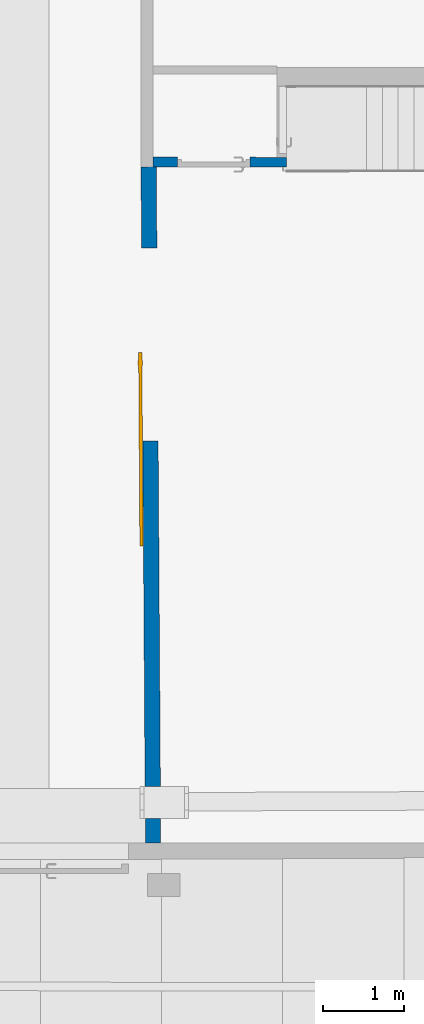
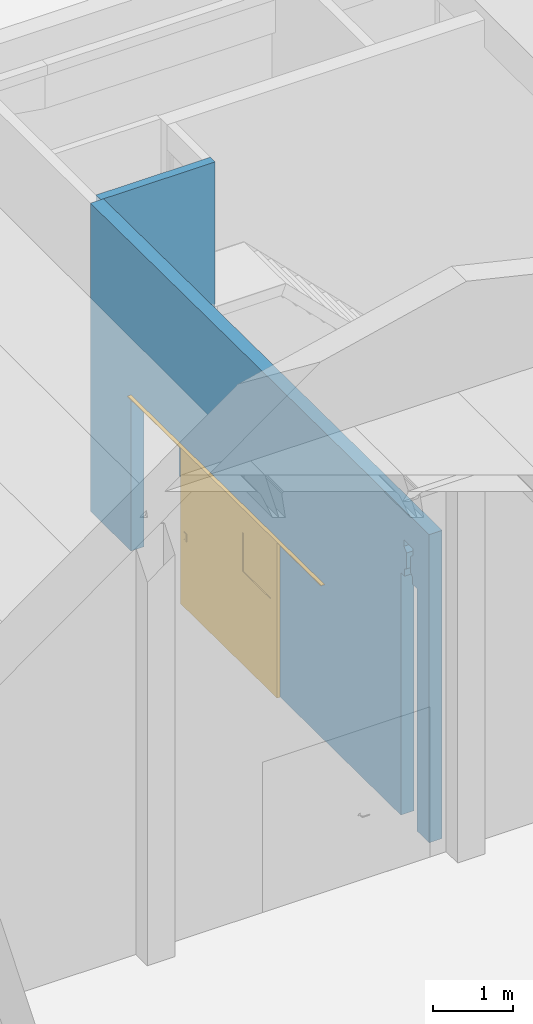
# One storey, part 142 of 301: 2 walls, 1 door, 2 openings.
"""IFC2X3 building model written with IfcOpenShell, lengths in millimetres."""

from ifc_helpers import new_model, entity, si_unit, converted_unit, derived_unit, money_unit, direction, frame, origin_with_axes, place, context, subcontext, project, spatial, open_shell, faceted_brep, surface_model, material, type_object, element, fill, save


model = new_model("IFC2X3")

# Units and contexts
model_context = context("Model", 3, precision=0.01, world=origin_with_axes(), true_north=direction((0.0, 1.0)))
body_context = subcontext(model_context, "Body", "Model", "MODEL_VIEW")
ifc_project = project(units=[si_unit("LENGTHUNIT", "METRE", prefix="MILLI"), si_unit("AREAUNIT", "SQUARE_METRE"), si_unit("VOLUMEUNIT", "CUBIC_METRE"), converted_unit("PLANEANGLEUNIT", "DEGREE", entity("IfcPlaneAngleMeasure", 0.0174532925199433), si_unit("PLANEANGLEUNIT", "RADIAN"), dimensions=[0, 0, 0, 0, 0, 0, 0]), money_unit("EUR"), converted_unit("TIMEUNIT", "Year", entity("IfcTimeMeasure", 31557600.0), si_unit("TIMEUNIT", "SECOND"), dimensions=[0, 0, 1, 0, 0, 0, 0]), si_unit("MASSUNIT", "GRAM", prefix="KILO"), si_unit("THERMODYNAMICTEMPERATUREUNIT", "DEGREE_CELSIUS"), si_unit("LUMINOUSINTENSITYUNIT", "LUMEN"), si_unit("ENERGYUNIT", "JOULE", prefix="MEGA"), derived_unit("THERMALCONDUCTANCEUNIT", [(si_unit("POWERUNIT", "WATT"), 1), (si_unit("LENGTHUNIT", "METRE"), -1), (si_unit("THERMODYNAMICTEMPERATUREUNIT", "KELVIN"), -1)]), derived_unit("SPECIFICHEATCAPACITYUNIT", [(si_unit("ENERGYUNIT", "JOULE"), 1), (si_unit("MASSUNIT", "GRAM", prefix="KILO"), -1), (si_unit("THERMODYNAMICTEMPERATUREUNIT", "KELVIN"), -1)]), derived_unit("MASSDENSITYUNIT", [(si_unit("MASSUNIT", "GRAM", prefix="KILO"), 1), (si_unit("VOLUMEUNIT", "CUBIC_METRE"), -1)])], contexts=[model_context])

# Site, building, storey
site_placement = place(None, frame((0.0, 0.0, 8650.0), z_axis=(0.0, 0.0, 1.0), x_axis=(1.0, 0.0, 0.0)))
site = spatial("IfcSite", under=ifc_project, at=site_placement, Name="43301:001:0844", CompositionType="ELEMENT")
building_placement = place(site_placement, origin_with_axes())
building = spatial("IfcBuilding", under=site, at=building_placement, Name="Kuressaare Ametikooli tuulikute mehaanikute õppekorpus", CompositionType="ELEMENT")
storey_placement = place(building_placement, origin_with_axes())
storey = spatial("IfcBuildingStorey", under=building, at=storey_placement, Name="1.korrus", CompositionType="ELEMENT", Elevation=0.0)

# Wall, opening, door
ifc_material = material(Name="GENEERILINE - KONSTRUKTRIOON")
wall_type_1 = type_object("IfcWallType", Name="GENEERILINE - KONSTRUKTRIOON 190", PredefinedType="NOTDEFINED")
wall_1_placement = place(storey_placement, frame((95526.50333681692, 62318.31223651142, 44.99999999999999), z_axis=(0.0, 0.0, 1.0), x_axis=(-0.006518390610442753, 0.9999787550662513, 0.0)))
wall_1 = element("IfcWall", 1, at=wall_1_placement, inside=storey, type_object=wall_type_1, material=ifc_material, Name="SS-XX", context=body_context, shape_type="Brep", body=[
    faceted_brep([(7387.926210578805, -190.0000000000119, 2390.0), (7387.926210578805, -189.9999999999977, 0.0), (8394.490610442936, -189.9999999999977, 0.0), (8394.490610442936, -189.9999999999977, 4715.0), (-1.237774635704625, -190.0000000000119, 4715.0), (-1.237774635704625, -190.0000000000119, 0.0), (299.7543023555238, -190.0000000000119, 0.0), (299.7543023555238, -190.0000000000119, 3710.018521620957), (408.0465716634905, -190.0000000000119, 3710.018521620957), (408.0465716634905, -190.0000000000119, 3819.998829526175), (463.0468280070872, -189.9999999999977, 3856.665496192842), (463.0468280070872, -189.9999999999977, 4099.999999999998), (393.0465017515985, -189.9999999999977, 4160.0), (393.0465017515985, -189.9999999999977, 4260.0), (623.0475737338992, -189.9999999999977, 4260.0), (623.0475737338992, -189.9999999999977, 4160.0), (553.0472474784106, -190.0000000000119, 4099.999999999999), (553.0472474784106, -190.0000000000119, 3856.665496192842), (608.0475038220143, -190.0000000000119, 3819.998829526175), (608.0475038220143, -190.0000000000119, 3710.018521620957), (699.7628005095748, -190.0000000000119, 3710.018521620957), (699.7628005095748, -190.0000000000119, 0.0), (4987.926210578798, -190.0000000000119, 0.0), (4987.926210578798, -190.0000000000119, 2390.0), (7387.926210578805, 0.0, 2390.0), (7387.926210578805, 0.0, 0.0), (8394.490610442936, 0.0, 0.0), (8394.490610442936, 0.0, 4715.0), (0.0, 0.0, 4715.0), (0.0, 0.0, 0.0), (300.9928228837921, 0.0, 0.0), (300.9928228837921, 0.0, 3710.018521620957), (408.6266664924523, 0.0, 3710.018521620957), (408.6266664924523, 0.0, 3819.998829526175), (463.6269228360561, 0.0, 3856.665496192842), (463.6269228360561, 0.0, 4099.999999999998), (393.6265965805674, 0.0, 4160.0), (393.6265965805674, 0.0, 4260.0), (623.6276685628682, 0.0, 4260.0), (623.6276685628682, 0.0, 4160.0), (553.6273423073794, 0.0, 4099.999999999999), (553.6273423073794, 0.0, 3856.665496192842), (608.6275986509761, 0.0, 3819.998829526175), (608.6275986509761, 0.0, 3710.018521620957), (701.0013210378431, 0.0, 3710.018521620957), (701.0013210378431, 0.0, 0.0), (4987.926210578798, 0.0, 0.0), (4987.926210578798, 0.0, 2390.0)], [[[0, 1, 2, 3, 4, 5, 6, 7, 8, 9, 10, 11, 12, 13, 14, 15, 16, 17, 18, 19, 20, 21, 22, 23]], [[1, 0, 24, 25]], [[1, 25, 26, 2]], [[26, 27, 3, 2]], [[28, 4, 3, 27]], [[29, 5, 4, 28]], [[30, 6, 5, 29]], [[7, 6, 30, 31]], [[8, 7, 31, 32]], [[8, 32, 33, 9]], [[34, 10, 9, 33]], [[35, 11, 10, 34]], [[36, 12, 11, 35]], [[37, 13, 12, 36]], [[38, 14, 13, 37]], [[39, 15, 14, 38]], [[40, 16, 15, 39]], [[41, 17, 16, 40]], [[42, 18, 17, 41]], [[43, 19, 18, 42]], [[20, 19, 43, 44]], [[44, 45, 21, 20]], [[46, 22, 21, 45]], [[23, 22, 46, 47]], [[0, 23, 47, 24]], [[47, 46, 45, 44, 43, 42, 41, 40, 39, 38, 37, 36, 35, 34, 33, 32, 31, 30, 29, 28, 27, 26, 25, 24]]]),
])
opening_1_placement = place(wall_1_placement, frame((6187.926210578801, 0.0, 0.0), z_axis=(0.0, 0.0, 1.0), x_axis=(1.0, 0.0, 0.0)))
opening_1 = element("IfcOpeningElement", 2, at=opening_1_placement, cuts=wall_1, Name="SU-XX", context=body_context, shape_type="Brep", body=[
    faceted_brep([(-1199.999999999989, -245.7174062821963, 2390.0), (-1199.999999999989, -245.7174062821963, 0.0), (1200.000000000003, -245.7174062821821, 0.0), (1200.000000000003, -245.7174062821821, 2390.0), (-1200.000000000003, 55.71740628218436, 2390.0), (-1200.000000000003, 55.71740628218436, 0.0), (1199.999999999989, 55.71740628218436, 0.0), (1199.999999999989, 55.71740628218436, 2390.0)], [[[0, 1, 2, 3]], [[4, 5, 1, 0]], [[5, 6, 2, 1]], [[6, 7, 3, 2]], [[7, 4, 0, 3]], [[6, 5, 4, 7]]]),
])
door_style = type_object("IfcDoorStyle", Name="Exterior Sliding Door 27", ConstructionType="NOTDEFINED", OperationType="SLIDING_TO_LEFT", ParameterTakesPrecedence=False, Sizeable=False)
door_placement = place(opening_1_placement, frame((-1200.000000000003, 0.0, 0.0), z_axis=(0.0, 0.0, 1.0), x_axis=(1.0, 0.0, 0.0)))
door = element("IfcDoor", 3, at=door_placement, inside=storey, type_object=door_style, Name="SU-XX", OverallHeight=2390.0, OverallWidth=2400.0, context=body_context, shape_type="SurfaceModel", body=[
    faceted_brep([(2400.000000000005, 49.99999999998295, 2390.5), (-2399.999999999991, 49.99999999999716, 2390.5), (-2399.999999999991, 0.0, 2390.5), (2400.000000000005, 0.0, 2390.5), (2400.000000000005, 49.99999999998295, 2380.5), (-2399.999999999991, 49.99999999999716, 2380.5), (-2399.999999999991, 46.99999999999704, 2380.5), (-2399.999999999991, 46.99999999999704, 2387.5), (-2399.999999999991, 3.000000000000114, 2387.5), (-2399.999999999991, 3.000000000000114, 2380.5), (-2399.999999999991, 0.0, 2380.5), (2400.000000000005, 0.0, 2380.5), (2399.999999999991, 3.000000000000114, 2380.5), (2399.999999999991, 3.000000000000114, 2387.5), (2399.999999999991, 46.99999999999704, 2387.5), (2399.999999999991, 46.99999999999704, 2380.5)], [[[0, 1, 2, 3]], [[4, 5, 1, 0]], [[1, 5, 6, 7, 8, 9, 10, 2]], [[3, 2, 10, 11]], [[0, 3, 11, 12, 13, 14, 15, 4]], [[15, 6, 5, 4]], [[14, 7, 6, 15]], [[13, 8, 7, 14]], [[12, 9, 8, 13]], [[11, 10, 9, 12]]]),
    faceted_brep([(1000.0, 5.000000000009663, 1040.0), (1000.0, -5.000000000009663, 1040.0), (940.0000000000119, -4.999999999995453, 1040.0), (939.9999999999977, 4.999999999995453, 1040.0), (1000.0, 5.000000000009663, 1160.0), (1000.0, -5.000000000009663, 1160.0), (940.0000000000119, -4.999999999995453, 1160.0), (990.0000000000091, -4.999999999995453, 1055.0), (950.0000000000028, -5.000000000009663, 1055.0), (950.0000000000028, -5.000000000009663, 1145.0), (990.0000000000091, -4.999999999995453, 1145.0), (939.9999999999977, 4.999999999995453, 1160.0), (990.0000000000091, 4.999999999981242, 1055.0), (990.0000000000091, 4.999999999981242, 1145.0), (950.0000000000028, 5.000000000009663, 1145.0), (950.0000000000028, 5.000000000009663, 1055.0)], [[[0, 1, 2, 3]], [[4, 5, 1, 0]], [[1, 5, 6, 2], [7, 8, 9, 10]], [[3, 2, 6, 11]], [[0, 3, 11, 4], [12, 13, 14, 15]], [[11, 6, 5, 4]], [[15, 8, 7, 12]], [[14, 9, 8, 15]], [[13, 10, 9, 14]], [[12, 7, 10, 13]]]),
    faceted_brep([(990.0000000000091, 4.999999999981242, 1055.0), (990.0000000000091, -4.999999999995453, 1055.0), (949.9999999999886, 1.999999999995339, 1055.0), (950.0000000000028, 5.000000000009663, 1055.0), (990.0000000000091, 4.999999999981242, 1145.0), (990.0000000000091, -4.999999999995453, 1145.0), (949.9999999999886, 1.999999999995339, 1145.0), (950.0000000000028, 5.000000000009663, 1145.0)], [[[0, 1, 2, 3]], [[4, 5, 1, 0]], [[1, 5, 6, 2]], [[3, 2, 6, 7]], [[0, 3, 7, 4]], [[7, 6, 5, 4]]]),
    faceted_brep([(1000.000000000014, 45.00000000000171, 1040.0), (940.0000000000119, 45.00000000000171, 1040.0), (939.9999999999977, 54.99999999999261, 1040.0), (999.9999999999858, 54.99999999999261, 1040.0), (1000.000000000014, 45.00000000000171, 1160.0), (940.0000000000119, 45.00000000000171, 1160.0), (989.9999999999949, 45.00000000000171, 1055.0), (950.0000000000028, 45.00000000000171, 1055.0), (950.0000000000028, 45.00000000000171, 1145.0), (989.9999999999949, 45.00000000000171, 1145.0), (939.9999999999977, 54.99999999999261, 1160.0), (999.9999999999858, 54.99999999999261, 1160.0), (990.0000000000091, 54.99999999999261, 1055.0), (990.0000000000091, 54.99999999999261, 1145.0), (950.000000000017, 54.99999999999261, 1145.0), (950.000000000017, 54.99999999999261, 1055.0)], [[[0, 1, 2, 3]], [[0, 4, 5, 1], [6, 7, 8, 9]], [[1, 5, 10, 2]], [[3, 2, 10, 11], [12, 13, 14, 15]], [[4, 0, 3, 11]], [[5, 4, 11, 10]], [[7, 6, 12, 15]], [[8, 7, 15, 14]], [[9, 8, 14, 13]], [[6, 9, 13, 12]]]),
    faceted_brep([(989.9999999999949, 45.00000000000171, 1055.0), (950.0000000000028, 45.00000000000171, 1055.0), (950.000000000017, 48.00000000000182, 1055.0), (990.0000000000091, 54.99999999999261, 1055.0), (989.9999999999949, 45.00000000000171, 1145.0), (950.0000000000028, 45.00000000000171, 1145.0), (950.000000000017, 48.00000000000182, 1145.0), (990.0000000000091, 54.99999999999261, 1145.0)], [[[0, 1, 2, 3]], [[0, 4, 5, 1]], [[1, 5, 6, 2]], [[3, 2, 6, 7]], [[4, 0, 3, 7]], [[5, 4, 7, 6]]]),
    faceted_brep([(-1299.999999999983, 45.00000000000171, 1420.0), (-1130.00000000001, 45.00000000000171, 1420.0), (-1129.999999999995, 5.000000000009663, 1420.0), (-1300.000000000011, 5.000000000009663, 1420.0), (-1299.999999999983, 45.00000000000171, 2017.0), (-1130.00000000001, 45.00000000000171, 2017.0), (-1129.999999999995, 5.000000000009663, 2017.0), (-1300.000000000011, 5.000000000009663, 2017.0)], [[[0, 1, 2, 3]], [[0, 4, 5, 1]], [[1, 5, 6, 2]], [[3, 2, 6, 7]], [[4, 0, 3, 7]], [[5, 4, 7, 6]]]),
    faceted_brep([(1099.999999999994, 44.99999999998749, 1420.0), (1099.999999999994, 44.99999999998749, 2017.0), (1100.000000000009, 4.999999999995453, 2017.0), (1100.000000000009, 4.999999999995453, 1420.0), (-439.9999999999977, 45.00000000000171, 1420.0), (-439.9999999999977, 45.00000000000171, 2017.0), (-439.9999999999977, 4.999999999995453, 2017.0), (-439.9999999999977, 4.999999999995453, 1420.0)], [[[0, 1, 2, 3]], [[0, 4, 5, 1]], [[1, 5, 6, 2]], [[3, 2, 6, 7]], [[4, 0, 3, 7]], [[5, 4, 7, 6]]]),
    faceted_brep([(-1299.999999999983, 45.00000000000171, 0.0), (1099.999999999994, 44.99999999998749, 0.0), (1100.000000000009, 4.999999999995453, 0.0), (-1300.000000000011, 5.000000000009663, 0.0), (-1299.999999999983, 45.00000000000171, 1420.0), (-1130.00000000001, 45.00000000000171, 1420.0), (-439.9999999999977, 45.00000000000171, 1420.0), (1099.999999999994, 44.99999999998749, 1420.0), (1100.000000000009, 4.999999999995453, 1420.0), (-439.9999999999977, 4.999999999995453, 1420.0), (-1129.999999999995, 5.000000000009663, 1420.0), (-1300.000000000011, 5.000000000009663, 1420.0)], [[[0, 1, 2, 3]], [[0, 4, 5, 6, 7, 1]], [[1, 7, 8, 2]], [[3, 2, 8, 9, 10, 11]], [[4, 0, 3, 11]], [[5, 4, 11, 10]], [[6, 5, 10, 9]], [[7, 6, 9, 8]]]),
    faceted_brep([(-1299.999999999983, 45.00000000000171, 2387.0), (-1299.999999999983, 45.00000000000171, 2017.0), (-1300.000000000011, 5.000000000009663, 2017.0), (-1300.000000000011, 5.000000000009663, 2387.0), (1099.999999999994, 44.99999999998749, 2387.0), (1099.999999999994, 44.99999999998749, 2017.0), (-439.9999999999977, 45.00000000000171, 2017.0), (-1130.00000000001, 45.00000000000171, 2017.0), (-1129.999999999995, 5.000000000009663, 2017.0), (-439.9999999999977, 4.999999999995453, 2017.0), (1100.000000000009, 4.999999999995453, 2017.0), (1100.000000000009, 4.999999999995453, 2387.0)], [[[0, 1, 2, 3]], [[0, 4, 5, 6, 7, 1]], [[1, 7, 8, 2]], [[3, 2, 8, 9, 10, 11]], [[4, 0, 3, 11]], [[5, 4, 11, 10]], [[6, 5, 10, 9]], [[7, 6, 9, 8]]]),
    surface_model("IfcShellBasedSurfaceModel", [(-1129.999999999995, 30.9999999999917, 1420.0), (-1129.999999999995, 30.9999999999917, 2017.0), (-439.9999999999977, 31.00000000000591, 2017.0), (-439.9999999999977, 31.00000000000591, 1420.0)], [open_shell([[[0, 1, 2, 3]]])]),
    surface_model("IfcShellBasedSurfaceModel", [(-1129.999999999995, 19.00000000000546, 1420.0), (-440.0000000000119, 18.99999999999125, 1420.0), (-440.0000000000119, 18.99999999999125, 2017.0), (-1129.999999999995, 19.00000000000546, 2017.0)], [open_shell([[[0, 1, 2, 3]]])]),
])
fill(opening_1, door)

# Wall, opening
wall_type_2 = type_object("IfcWallType", Name="GENEERILINE - KONSTRUKTRIOON 120", PredefinedType="NOTDEFINED")
wall_2_placement = place(storey_placement, frame((97277.59552001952, 70710.74691551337, 44.99999999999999), z_axis=(0.0, 0.0, 1.0), x_axis=(-0.9999994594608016, 0.001039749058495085, 0.0)))
wall_2 = element("IfcWall", 4, at=wall_2_placement, inside=storey, type_object=wall_type_2, material=ifc_material, Name="SS-XX", context=body_context, shape_type="Brep", body=[
    faceted_brep([(1354.663931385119, -120.0000000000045, 2100.0), (1354.663931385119, -120.0000000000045, 0.0), (1656.035459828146, -119.9999999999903, 0.0), (1656.035459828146, -119.9999999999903, 4715.0), (0.1247699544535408, -120.0000000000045, 4715.0), (0.1247699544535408, -120.0000000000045, 0.0), (454.6639313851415, -119.9999999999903, 0.0), (454.6639313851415, -119.9999999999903, 2100.0), (1354.663931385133, 0.0, 2100.0), (1354.663931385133, 0.0, 0.0), (1655.800919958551, 0.0, 0.0), (1655.800919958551, 0.0, 4715.0), (0.0, 0.0, 4715.0), (0.0, 0.0, 0.0), (454.6639313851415, 0.0, 0.0), (454.6639313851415, 0.0, 2100.0)], [[[0, 1, 2, 3, 4, 5, 6, 7]], [[1, 0, 8, 9]], [[1, 9, 10, 2]], [[3, 2, 10, 11]], [[11, 12, 4, 3]], [[4, 12, 13, 5]], [[14, 6, 5, 13]], [[7, 6, 14, 15]], [[0, 7, 15, 8]], [[15, 14, 13, 12, 11, 10, 9, 8]]]),
])
opening_2_placement = place(wall_2_placement, frame((904.6639313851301, 0.0, 0.0), z_axis=(0.0, 0.0, 1.0), x_axis=(1.0, 0.0, 0.0)))
element("IfcOpeningElement", 5, at=opening_2_placement, cuts=wall_2, Name="SU-XX", context=body_context, shape_type="Brep", body=[
    faceted_brep([(-449.9999999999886, -122.8775790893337, 2100.0), (-449.9999999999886, -122.8775790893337, 0.0), (450.0000000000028, -122.8775790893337, 0.0), (450.0000000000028, -122.8775790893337, 2100.0), (-450.0000000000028, 2.877579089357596, 2100.0), (-450.0000000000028, 2.877579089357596, 0.0), (450.0000000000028, 2.877579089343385, 0.0), (450.0000000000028, 2.877579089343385, 2100.0)], [[[0, 1, 2, 3]], [[4, 5, 1, 0]], [[5, 6, 2, 1]], [[6, 7, 3, 2]], [[7, 4, 0, 3]], [[6, 5, 4, 7]]]),
])

save(model, "model.ifc")
